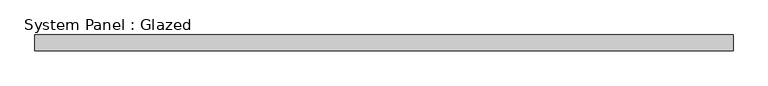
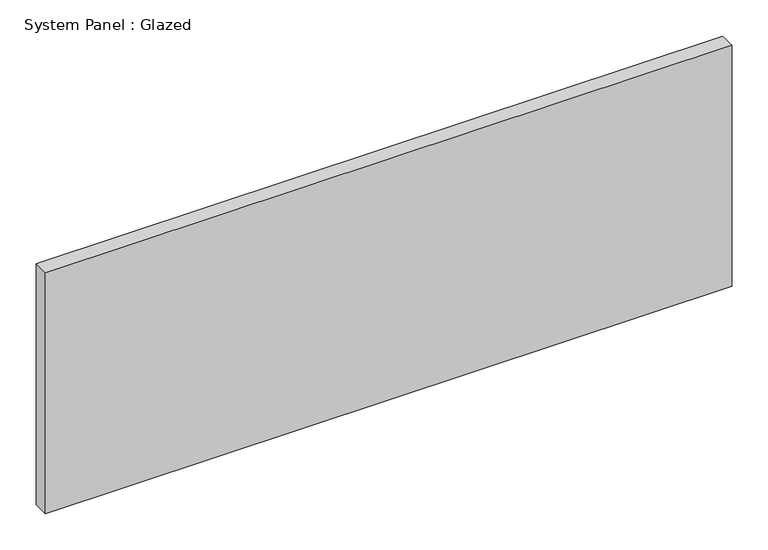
"""IFC4 building model written with IfcOpenShell, lengths in millimetres: plate geometry, System Panel : Glazed."""

from ifc_helpers import new_model, si_unit, origin, origin_with_axes, place, context, project, spatial, polyline, outline, extrude, source, transform, mapped, element, save


def system_panel_glazed_fb6efac8(model_context):
    return source(origin(), model_context, "Body", "SweptSolid", [
        extrude(outline(polyline([(548.4875, -49.5), (-548.4875, -49.5), (-548.4875, -24.5), (548.4875, -24.5), (548.4875, -49.5)])), origin_with_axes(), (0.0, 0.0, 1.0), 407.2),
    ])


if __name__ == "__main__":
    model = new_model("IFC4")
    model_context = context("Model", 3, world=origin())
    ifc_project = project(units=[si_unit("LENGTHUNIT", "METRE", prefix="MILLI")], contexts=[model_context])
    site = spatial("IfcSite", under=ifc_project)
    building = spatial("IfcBuilding", under=site)
    placement = place(None, origin())
    system_panel_glazed_shape = system_panel_glazed_fb6efac8(model_context)
    element("IfcPlate", 1, ObjectType="System Panel : Glazed", at=placement, inside=building, context=model_context, shape_type="MappedRepresentation", body=[
        mapped(system_panel_glazed_shape, transform((0.0, 0.0, 0.0), x_axis=(1.0, 0.0, 0.0), y_axis=(0.0, 1.0, 0.0), z_axis=(0.0, 0.0, 1.0))),
    ])
    save(model, "model.ifc")
